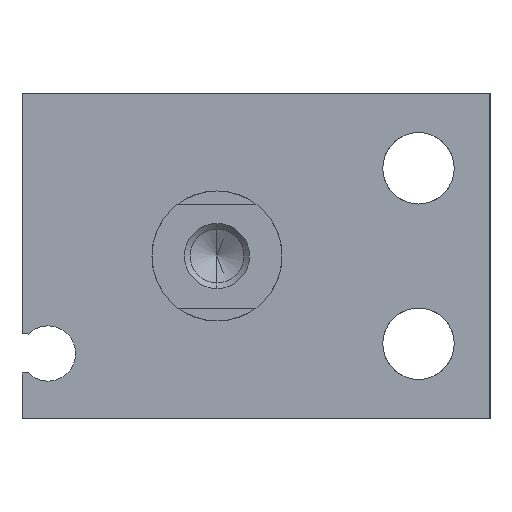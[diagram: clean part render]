
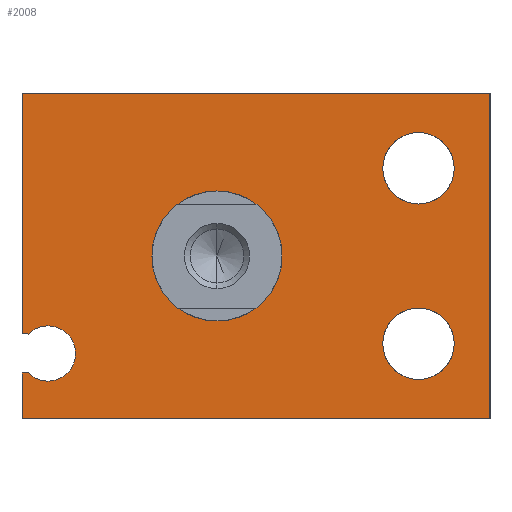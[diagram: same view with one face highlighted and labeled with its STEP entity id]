
A CAD part, left-side view. The second image highlights one B-rep face of the part: STEP entity #2008.
In plain terms, the highlighted planar face has unit normal (-1, 0, 0).
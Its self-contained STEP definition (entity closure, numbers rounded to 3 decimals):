
#40 = CARTESIAN_POINT ( 'NONE',  ( 0., 13., -9.625 ) ) ;
#61 = DIRECTION ( 'NONE',  ( -1., 0., 0. ) ) ;
#139 = EDGE_CURVE ( 'NONE', #227, #483, #1294, .T. ) ;
#144 = CIRCLE ( 'NONE', #1992, 2.75 ) ;
#159 = DIRECTION ( 'NONE',  ( -1., 0., 0. ) ) ;
#197 = ORIENTED_EDGE ( 'NONE', *, *, #1482, .T. ) ;
#227 = VERTEX_POINT ( 'NONE', #1739 ) ;
#236 = AXIS2_PLACEMENT_3D ( 'NONE', #1460, #3214, #2929 ) ;
#259 = ORIENTED_EDGE ( 'NONE', *, *, #2402, .T. ) ;
#295 = CARTESIAN_POINT ( 'NONE',  ( 0., 0., 5. ) ) ;
#297 = AXIS2_PLACEMENT_3D ( 'NONE', #579, #3099, #2333 ) ;
#324 = DIRECTION ( 'NONE',  ( 0., 0., 1. ) ) ;
#332 = LINE ( 'NONE', #1348, #823 ) ;
#335 = CARTESIAN_POINT ( 'NONE',  ( 0., -15.5, -9.5 ) ) ;
#338 = VERTEX_POINT ( 'NONE', #1752 ) ;
#347 = VERTEX_POINT ( 'NONE', #1477 ) ;
#350 = CIRCLE ( 'NONE', #1678, 2.75 ) ;
#362 = EDGE_CURVE ( 'NONE', #1520, #338, #2733, .T. ) ;
#376 = CARTESIAN_POINT ( 'NONE',  ( 0., -21., -12.5 ) ) ;
#382 = VERTEX_POINT ( 'NONE', #1795 ) ;
#386 = DIRECTION ( 'NONE',  ( 0., 0., -1. ) ) ;
#388 = CARTESIAN_POINT ( 'NONE',  ( 0., 15., 12.5 ) ) ;
#401 = PLANE ( 'NONE',  #1471 ) ;
#466 = CARTESIAN_POINT ( 'NONE',  ( 0., 0., 0. ) ) ;
#468 = ORIENTED_EDGE ( 'NONE', *, *, #362, .T. ) ;
#483 = VERTEX_POINT ( 'NONE', #40 ) ;
#494 = DIRECTION ( 'NONE',  ( -1., 0., 0. ) ) ;
#508 = CARTESIAN_POINT ( 'NONE',  ( 0., 13., -7.5 ) ) ;
#579 = CARTESIAN_POINT ( 'NONE',  ( 0., -15.5, -6.75 ) ) ;
#583 = VERTEX_POINT ( 'NONE', #939 ) ;
#665 = CIRCLE ( 'NONE', #771, 2.125 ) ;
#716 = VECTOR ( 'NONE', #2346, 1000. ) ;
#771 = AXIS2_PLACEMENT_3D ( 'NONE', #508, #61, #324 ) ;
#823 = VECTOR ( 'NONE', #2299, 1000. ) ;
#830 = AXIS2_PLACEMENT_3D ( 'NONE', #1715, #494, #3239 ) ;
#834 = AXIS2_PLACEMENT_3D ( 'NONE', #466, #3010, #2785 ) ;
#843 = CARTESIAN_POINT ( 'NONE',  ( 0., 15., 12.5 ) ) ;
#901 = CARTESIAN_POINT ( 'NONE',  ( 0., -15.5, -4. ) ) ;
#921 = EDGE_CURVE ( 'NONE', #338, #955, #1096, .T. ) ;
#939 = CARTESIAN_POINT ( 'NONE',  ( 0., 13., -5.375 ) ) ;
#955 = VERTEX_POINT ( 'NONE', #1826 ) ;
#1076 = VECTOR ( 'NONE', #386, 1000. ) ;
#1096 = LINE ( 'NONE', #2345, #1253 ) ;
#1100 = ORIENTED_EDGE ( 'NONE', *, *, #139, .F. ) ;
#1107 = VERTEX_POINT ( 'NONE', #335 ) ;
#1115 = DIRECTION ( 'NONE',  ( 0., 0., 1. ) ) ;
#1125 = DIRECTION ( 'NONE',  ( 0., -1., 0. ) ) ;
#1137 = VERTEX_POINT ( 'NONE', #1302 ) ;
#1154 = VERTEX_POINT ( 'NONE', #1862 ) ;
#1166 = CARTESIAN_POINT ( 'NONE',  ( 0., 13., -7.5 ) ) ;
#1215 = CIRCLE ( 'NONE', #834, 5. ) ;
#1236 = EDGE_CURVE ( 'NONE', #483, #583, #1900, .T. ) ;
#1253 = VECTOR ( 'NONE', #1125, 1000. ) ;
#1274 = VERTEX_POINT ( 'NONE', #1458 ) ;
#1294 = CIRCLE ( 'NONE', #236, 2.125 ) ;
#1302 = CARTESIAN_POINT ( 'NONE',  ( 0., 0., -5. ) ) ;
#1327 = DIRECTION ( 'NONE',  ( -1., 0., 0. ) ) ;
#1335 = EDGE_CURVE ( 'NONE', #3116, #1274, #1407, .T. ) ;
#1348 = CARTESIAN_POINT ( 'NONE',  ( 0., -21., 12.5 ) ) ;
#1350 = CARTESIAN_POINT ( 'NONE',  ( 0., 14.505, -9. ) ) ;
#1361 = CIRCLE ( 'NONE', #1787, 5. ) ;
#1363 = VERTEX_POINT ( 'NONE', #901 ) ;
#1373 = AXIS2_PLACEMENT_3D ( 'NONE', #1442, #2911, #2441 ) ;
#1406 = LINE ( 'NONE', #376, #3255 ) ;
#1407 = LINE ( 'NONE', #2944, #2365 ) ;
#1408 = ORIENTED_EDGE ( 'NONE', *, *, #1236, .F. ) ;
#1416 = DIRECTION ( 'NONE',  ( 0., 0., 1. ) ) ;
#1422 = ORIENTED_EDGE ( 'NONE', *, *, #1762, .F. ) ;
#1434 = CARTESIAN_POINT ( 'NONE',  ( 0., 15., -6. ) ) ;
#1442 = CARTESIAN_POINT ( 'NONE',  ( 0., 13., -7.5 ) ) ;
#1458 = CARTESIAN_POINT ( 'NONE',  ( 0., 14.505, -6. ) ) ;
#1460 = CARTESIAN_POINT ( 'NONE',  ( 0., 13., -7.5 ) ) ;
#1471 = AXIS2_PLACEMENT_3D ( 'NONE', #1166, #159, #1416 ) ;
#1477 = CARTESIAN_POINT ( 'NONE',  ( 0., -21., 12.5 ) ) ;
#1482 = EDGE_CURVE ( 'NONE', #1137, #2162, #1215, .T. ) ;
#1520 = VERTEX_POINT ( 'NONE', #2768 ) ;
#1613 = LINE ( 'NONE', #1350, #716 ) ;
#1629 = FACE_OUTER_BOUND ( 'NONE', #2392, .T. ) ;
#1655 = ORIENTED_EDGE ( 'NONE', *, *, #1926, .T. ) ;
#1676 = CIRCLE ( 'NONE', #297, 2.75 ) ;
#1678 = AXIS2_PLACEMENT_3D ( 'NONE', #2434, #3128, #1115 ) ;
#1715 = CARTESIAN_POINT ( 'NONE',  ( 0., -15.5, 6.75 ) ) ;
#1716 = EDGE_CURVE ( 'NONE', #955, #347, #1406, .T. ) ;
#1739 = CARTESIAN_POINT ( 'NONE',  ( 0., 14.505, -9. ) ) ;
#1752 = CARTESIAN_POINT ( 'NONE',  ( 0., 15., -12.5 ) ) ;
#1762 = EDGE_CURVE ( 'NONE', #1154, #382, #1840, .T. ) ;
#1787 = AXIS2_PLACEMENT_3D ( 'NONE', #2777, #2237, #3219 ) ;
#1788 = VECTOR ( 'NONE', #2244, 1000. ) ;
#1795 = CARTESIAN_POINT ( 'NONE',  ( 0., -15.5, 4. ) ) ;
#1821 = EDGE_CURVE ( 'NONE', #3224, #3116, #3111, .T. ) ;
#1826 = CARTESIAN_POINT ( 'NONE',  ( 0., -21., -12.5 ) ) ;
#1840 = CIRCLE ( 'NONE', #830, 2.75 ) ;
#1862 = CARTESIAN_POINT ( 'NONE',  ( 0., -15.5, 9.5 ) ) ;
#1869 = CARTESIAN_POINT ( 'NONE',  ( 0., -15.5, 6.75 ) ) ;
#1879 = EDGE_CURVE ( 'NONE', #1107, #1363, #1676, .T. ) ;
#1900 = CIRCLE ( 'NONE', #1373, 2.125 ) ;
#1926 = EDGE_CURVE ( 'NONE', #227, #1520, #1613, .T. ) ;
#1952 = ORIENTED_EDGE ( 'NONE', *, *, #2265, .F. ) ;
#1992 = AXIS2_PLACEMENT_3D ( 'NONE', #1869, #1327, #2859 ) ;
#2008 = ADVANCED_FACE ( 'NONE', ( #1629, #3126, #2174, #2417 ), #401, .T. ) ;
#2152 = ORIENTED_EDGE ( 'NONE', *, *, #1335, .T. ) ;
#2162 = VERTEX_POINT ( 'NONE', #295 ) ;
#2167 = EDGE_CURVE ( 'NONE', #382, #1154, #144, .T. ) ;
#2174 = FACE_BOUND ( 'NONE', #2275, .T. ) ;
#2211 = ORIENTED_EDGE ( 'NONE', *, *, #921, .T. ) ;
#2215 = DIRECTION ( 'NONE',  ( 0., -1., 0. ) ) ;
#2237 = DIRECTION ( 'NONE',  ( 1., 0., 0. ) ) ;
#2244 = DIRECTION ( 'NONE',  ( 0., 0., -1. ) ) ;
#2265 = EDGE_CURVE ( 'NONE', #583, #1274, #665, .T. ) ;
#2275 = EDGE_LOOP ( 'NONE', ( #2391, #2841 ) ) ;
#2299 = DIRECTION ( 'NONE',  ( 0., 1., 0. ) ) ;
#2333 = DIRECTION ( 'NONE',  ( 0., 0., 1. ) ) ;
#2345 = CARTESIAN_POINT ( 'NONE',  ( 0., 15., -12.5 ) ) ;
#2346 = DIRECTION ( 'NONE',  ( 0., 1., 0. ) ) ;
#2358 = ORIENTED_EDGE ( 'NONE', *, *, #1716, .T. ) ;
#2365 = VECTOR ( 'NONE', #2215, 1000. ) ;
#2391 = ORIENTED_EDGE ( 'NONE', *, *, #3240, .F. ) ;
#2392 = EDGE_LOOP ( 'NONE', ( #2211, #2358, #2675, #2792, #2152, #1952, #1408, #1100, #1655, #468 ) ) ;
#2402 = EDGE_CURVE ( 'NONE', #2162, #1137, #1361, .T. ) ;
#2413 = ORIENTED_EDGE ( 'NONE', *, *, #2167, .F. ) ;
#2417 = FACE_BOUND ( 'NONE', #3222, .T. ) ;
#2434 = CARTESIAN_POINT ( 'NONE',  ( 0., -15.5, -6.75 ) ) ;
#2441 = DIRECTION ( 'NONE',  ( 0., 0., 1. ) ) ;
#2500 = EDGE_LOOP ( 'NONE', ( #197, #259 ) ) ;
#2559 = EDGE_CURVE ( 'NONE', #347, #3224, #332, .T. ) ;
#2675 = ORIENTED_EDGE ( 'NONE', *, *, #2559, .T. ) ;
#2733 = LINE ( 'NONE', #2975, #1788 ) ;
#2768 = CARTESIAN_POINT ( 'NONE',  ( 0., 15., -9. ) ) ;
#2777 = CARTESIAN_POINT ( 'NONE',  ( 0., 0., 0. ) ) ;
#2785 = DIRECTION ( 'NONE',  ( 0., 0., -1. ) ) ;
#2792 = ORIENTED_EDGE ( 'NONE', *, *, #1821, .T. ) ;
#2841 = ORIENTED_EDGE ( 'NONE', *, *, #1879, .F. ) ;
#2859 = DIRECTION ( 'NONE',  ( 0., 0., 1. ) ) ;
#2878 = DIRECTION ( 'NONE',  ( 0., 0., 1. ) ) ;
#2911 = DIRECTION ( 'NONE',  ( -1., 0., 0. ) ) ;
#2929 = DIRECTION ( 'NONE',  ( 0., 0., 1. ) ) ;
#2944 = CARTESIAN_POINT ( 'NONE',  ( 0., 15., -6. ) ) ;
#2975 = CARTESIAN_POINT ( 'NONE',  ( 0., 15., -9. ) ) ;
#3010 = DIRECTION ( 'NONE',  ( 1., 0., 0. ) ) ;
#3099 = DIRECTION ( 'NONE',  ( -1., 0., 0. ) ) ;
#3111 = LINE ( 'NONE', #843, #1076 ) ;
#3116 = VERTEX_POINT ( 'NONE', #1434 ) ;
#3126 = FACE_BOUND ( 'NONE', #2500, .T. ) ;
#3128 = DIRECTION ( 'NONE',  ( -1., 0., 0. ) ) ;
#3214 = DIRECTION ( 'NONE',  ( -1., 0., 0. ) ) ;
#3219 = DIRECTION ( 'NONE',  ( 0., 0., -1. ) ) ;
#3222 = EDGE_LOOP ( 'NONE', ( #1422, #2413 ) ) ;
#3224 = VERTEX_POINT ( 'NONE', #388 ) ;
#3239 = DIRECTION ( 'NONE',  ( 0., 0., 1. ) ) ;
#3240 = EDGE_CURVE ( 'NONE', #1363, #1107, #350, .T. ) ;
#3255 = VECTOR ( 'NONE', #2878, 1000. ) ;
